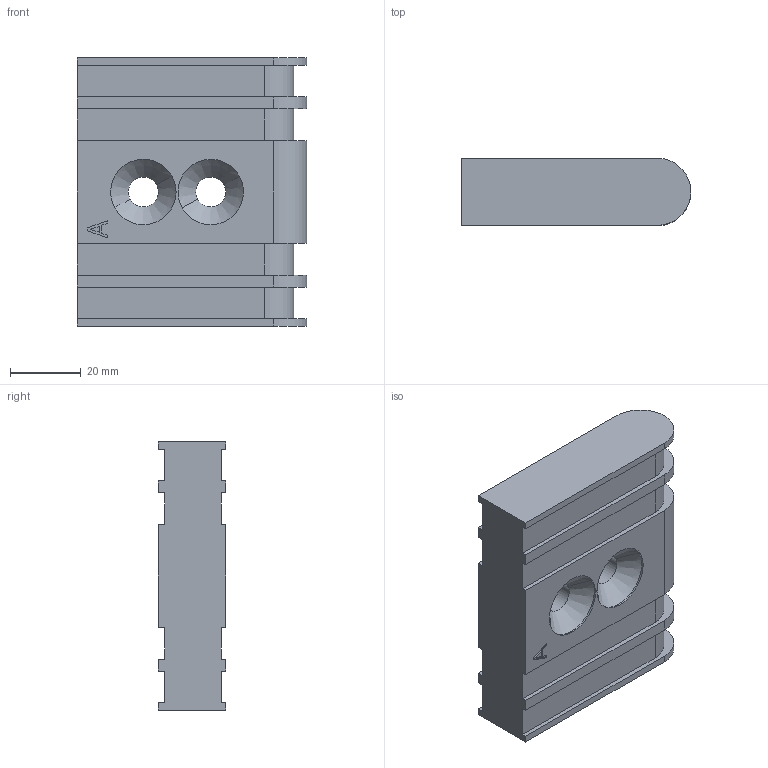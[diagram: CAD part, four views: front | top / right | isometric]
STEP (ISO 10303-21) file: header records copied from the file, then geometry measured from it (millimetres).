
FILE_DESCRIPTION(('CATIA V5 STEP Exchange'),'2;1');
FILE_NAME('S:\3D e 2D per Clienti\3D definitivi\Part 200\P22865_01.stp','2021-04-13T15:16:52+00:00',('none'),('none'),'Version 5-6 Release 2012','CATIA V5 STEP AP203','none');
FILE_SCHEMA(('CONFIG_CONTROL_DESIGN'));
Length unit declared in the file: millimetre
Products named in the file (1): P22865_01
Bounding box: 65 x 19 x 75.8 mm (x, y, z)
Volume: 77587 mm3; surface area: 16687.8 mm2
Topology: 1 solids, 1 shells, 88 faces, 241 edges, 158 vertices
Faces by surface type: plane 55, cylinder 25, cone 8
Entity records: 2566 total; most frequent: ORIENTED_EDGE 482, CARTESIAN_POINT 447, DIRECTION 335, EDGE_CURVE 241, VECTOR 183, LINE 183, VERTEX_POINT 158, AXIS2_PLACEMENT_3D 106
